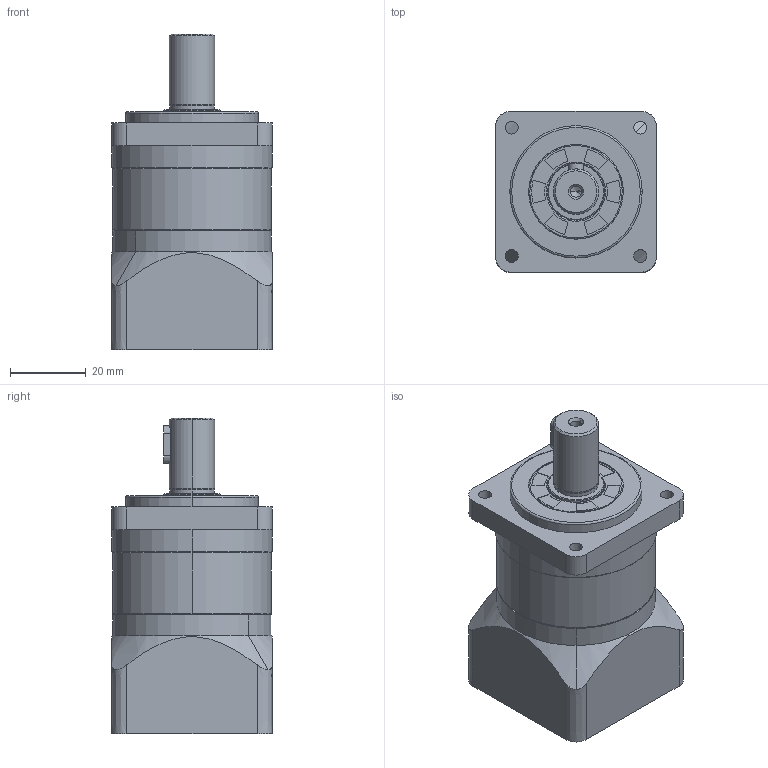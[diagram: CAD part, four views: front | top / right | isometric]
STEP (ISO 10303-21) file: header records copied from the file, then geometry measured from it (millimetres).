
FILE_DESCRIPTION (( 'STEP AP203' ), '1' );
FILE_NAME ('SB42-L1(8-30-45-M3).STEP', '2021-12-14T03:54:09', ( '' ), ( '' ), 'SwSTEP 2.0', 'SolidWorks 2016', '' );
FILE_SCHEMA (( 'CONFIG_CONTROL_DESIGN' ));
Length unit declared in the file: millimetre
Products named in the file (8): SN42-(8); SN42-(30-45-M3); SB42-(35x3-48-3.4); SN42; SB42-L1(8-30-45-M3); SN42-(12x20-4x10); SN42-15x25x4; SN42-26x14x11-M4
Assembly tree (7 placements, depth 2):
  SB42-L1(8-30-45-M3)
    SB42-(35x3-48-3.4)
    SN42-(12x20-4x10)
    SN42
    SN42-(30-45-M3)
    SN42-(8)
    SN42-26x14x11-M4
    SN42-15x25x4
Bounding box: 42.5 x 42.5 x 83.5 mm (x, y, z)
Volume: 79101 mm3; surface area: 33253.5 mm2
Topology: 7 solids, 10 shells, 372 faces, 914 edges, 571 vertices
Faces by surface type: cylinder 188, plane 93, cone 52, bspline 37, torus 2
Entity records: 23515 total; most frequent: CARTESIAN_POINT 14308, ORIENTED_EDGE 1788, DIRECTION 1683, EDGE_CURVE 896, AXIS2_PLACEMENT_3D 660, VERTEX_POINT 571, EDGE_LOOP 434, ADVANCED_FACE 372
